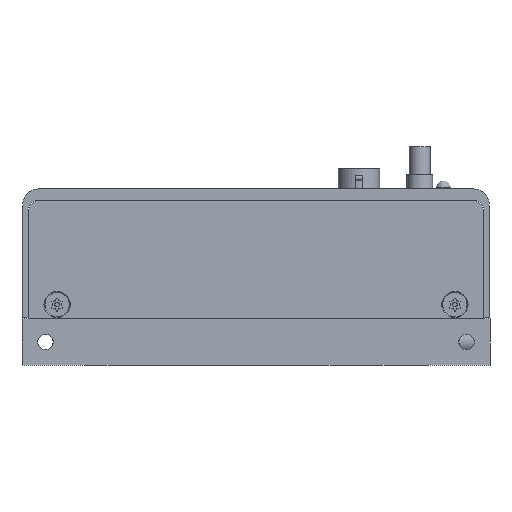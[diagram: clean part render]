
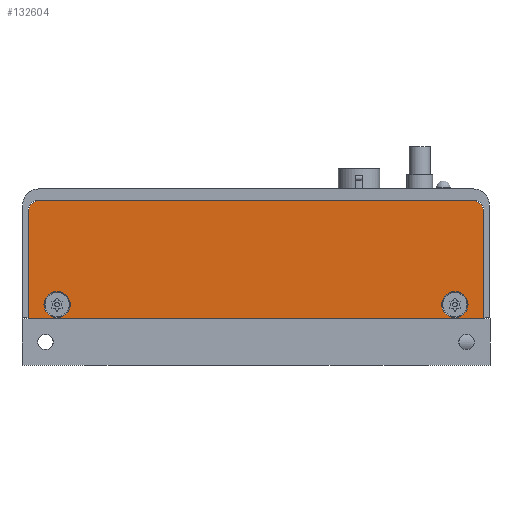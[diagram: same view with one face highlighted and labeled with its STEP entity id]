
A CAD part, left-side view. The second image highlights one B-rep face of the part: STEP entity #132604.
In plain terms, the highlighted planar face has unit normal (-1, 0, 0).
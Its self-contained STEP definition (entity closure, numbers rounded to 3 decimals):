
#234 = DIRECTION ( 'NONE',  ( 0., -1., 0. ) ) ;
#2821 = VERTEX_POINT ( 'NONE', #53393 ) ;
#3903 = AXIS2_PLACEMENT_3D ( 'NONE', #93050, #52384, #234 ) ;
#7078 = CARTESIAN_POINT ( 'NONE',  ( -39.79, 39.7, 13. ) ) ;
#8036 = VERTEX_POINT ( 'NONE', #113119 ) ;
#8353 = CIRCLE ( 'NONE', #38601, 2.8 ) ;
#14689 = VERTEX_POINT ( 'NONE', #94146 ) ;
#17019 = FACE_BOUND ( 'NONE', #83381, .T. ) ;
#18574 = LINE ( 'NONE', #89036, #54353 ) ;
#19021 = DIRECTION ( 'NONE',  ( 0., -1., 0. ) ) ;
#22099 = EDGE_CURVE ( 'NONE', #77720, #2821, #105481, .T. ) ;
#32003 = CIRCLE ( 'NONE', #3903, 2.8 ) ;
#34712 = CARTESIAN_POINT ( 'NONE',  ( -39.79, 46.4, 33. ) ) ;
#35374 = ORIENTED_EDGE ( 'NONE', *, *, #40061, .T. ) ;
#36487 = AXIS2_PLACEMENT_3D ( 'NONE', #88562, #98060, #129239 ) ;
#37467 = DIRECTION ( 'NONE',  ( 0., -1., 0. ) ) ;
#37556 = DIRECTION ( 'NONE',  ( 0., 1., 0. ) ) ;
#38601 = AXIS2_PLACEMENT_3D ( 'NONE', #48925, #99746, #38770 ) ;
#38770 = DIRECTION ( 'NONE',  ( 0., -1., 0. ) ) ;
#40061 = EDGE_CURVE ( 'NONE', #69370, #69370, #32003, .T. ) ;
#40865 = EDGE_CURVE ( 'NONE', #70039, #70039, #8353, .T. ) ;
#43796 = CARTESIAN_POINT ( 'NONE',  ( -39.79, -48.6, 10.1 ) ) ;
#44036 = CARTESIAN_POINT ( 'NONE',  ( -39.79, 48.6, 33. ) ) ;
#45667 = VECTOR ( 'NONE', #60195, 1000. ) ;
#47496 = FACE_OUTER_BOUND ( 'NONE', #71816, .T. ) ;
#48925 = CARTESIAN_POINT ( 'NONE',  ( -39.79, -42.5, 13. ) ) ;
#49462 = LINE ( 'NONE', #93459, #60574 ) ;
#50752 = ORIENTED_EDGE ( 'NONE', *, *, #109237, .T. ) ;
#52384 = DIRECTION ( 'NONE',  ( 1., 0., 0. ) ) ;
#53393 = CARTESIAN_POINT ( 'NONE',  ( -39.79, -48.6, 10.1 ) ) ;
#54353 = VECTOR ( 'NONE', #37556, 1000. ) ;
#58752 = ORIENTED_EDGE ( 'NONE', *, *, #120529, .T. ) ;
#60195 = DIRECTION ( 'NONE',  ( 0., 0., 1. ) ) ;
#60574 = VECTOR ( 'NONE', #100962, 1000. ) ;
#65410 = FACE_BOUND ( 'NONE', #133572, .T. ) ;
#65889 = DIRECTION ( 'NONE',  ( 0., 1., 0. ) ) ;
#67914 = ORIENTED_EDGE ( 'NONE', *, *, #114667, .T. ) ;
#69370 = VERTEX_POINT ( 'NONE', #7078 ) ;
#69982 = CARTESIAN_POINT ( 'NONE',  ( -39.79, 48.6, 10.1 ) ) ;
#70039 = VERTEX_POINT ( 'NONE', #120213 ) ;
#71816 = EDGE_LOOP ( 'NONE', ( #67914, #50752, #58752, #82898, #95511, #130946 ) ) ;
#73878 = EDGE_CURVE ( 'NONE', #118736, #133673, #109093, .T. ) ;
#76049 = DIRECTION ( 'NONE',  ( -1., 0., 0. ) ) ;
#77720 = VERTEX_POINT ( 'NONE', #69982 ) ;
#79999 = PLANE ( 'NONE',  #105137 ) ;
#82898 = ORIENTED_EDGE ( 'NONE', *, *, #73878, .T. ) ;
#83381 = EDGE_LOOP ( 'NONE', ( #35374 ) ) ;
#86304 = CIRCLE ( 'NONE', #36487, 2.2 ) ;
#88562 = CARTESIAN_POINT ( 'NONE',  ( -39.79, -46.4, 33. ) ) ;
#89036 = CARTESIAN_POINT ( 'NONE',  ( -39.79, -46.4, 35.2 ) ) ;
#89340 = ORIENTED_EDGE ( 'NONE', *, *, #40865, .T. ) ;
#89629 = AXIS2_PLACEMENT_3D ( 'NONE', #34712, #76049, #65889 ) ;
#90693 = LINE ( 'NONE', #110361, #45667 ) ;
#93050 = CARTESIAN_POINT ( 'NONE',  ( -39.79, 42.5, 13. ) ) ;
#93459 = CARTESIAN_POINT ( 'NONE',  ( -39.79, 48.6, 10.1 ) ) ;
#94146 = CARTESIAN_POINT ( 'NONE',  ( -39.79, -48.6, 33. ) ) ;
#95511 = ORIENTED_EDGE ( 'NONE', *, *, #112923, .T. ) ;
#98060 = DIRECTION ( 'NONE',  ( -1., 0., 0. ) ) ;
#99746 = DIRECTION ( 'NONE',  ( 1., 0., 0. ) ) ;
#100321 = CARTESIAN_POINT ( 'NONE',  ( -39.79, -46.4, 33. ) ) ;
#100962 = DIRECTION ( 'NONE',  ( 0., 0., -1. ) ) ;
#105137 = AXIS2_PLACEMENT_3D ( 'NONE', #100321, #111836, #19021 ) ;
#105481 = LINE ( 'NONE', #43796, #110891 ) ;
#109093 = CIRCLE ( 'NONE', #89629, 2.2 ) ;
#109237 = EDGE_CURVE ( 'NONE', #14689, #8036, #86304, .T. ) ;
#110361 = CARTESIAN_POINT ( 'NONE',  ( -39.79, -48.6, 10.1 ) ) ;
#110891 = VECTOR ( 'NONE', #37467, 1000. ) ;
#111836 = DIRECTION ( 'NONE',  ( -1., 0., 0. ) ) ;
#112923 = EDGE_CURVE ( 'NONE', #133673, #77720, #49462, .T. ) ;
#113119 = CARTESIAN_POINT ( 'NONE',  ( -39.79, -46.4, 35.2 ) ) ;
#114667 = EDGE_CURVE ( 'NONE', #2821, #14689, #90693, .T. ) ;
#118736 = VERTEX_POINT ( 'NONE', #124578 ) ;
#120213 = CARTESIAN_POINT ( 'NONE',  ( -39.79, -45.3, 13. ) ) ;
#120529 = EDGE_CURVE ( 'NONE', #8036, #118736, #18574, .T. ) ;
#124578 = CARTESIAN_POINT ( 'NONE',  ( -39.79, 46.4, 35.2 ) ) ;
#129239 = DIRECTION ( 'NONE',  ( 0., -1., 0. ) ) ;
#130946 = ORIENTED_EDGE ( 'NONE', *, *, #22099, .T. ) ;
#132604 = ADVANCED_FACE ( 'NONE', ( #65410, #17019, #47496 ), #79999, .T. ) ;
#133572 = EDGE_LOOP ( 'NONE', ( #89340 ) ) ;
#133673 = VERTEX_POINT ( 'NONE', #44036 ) ;
